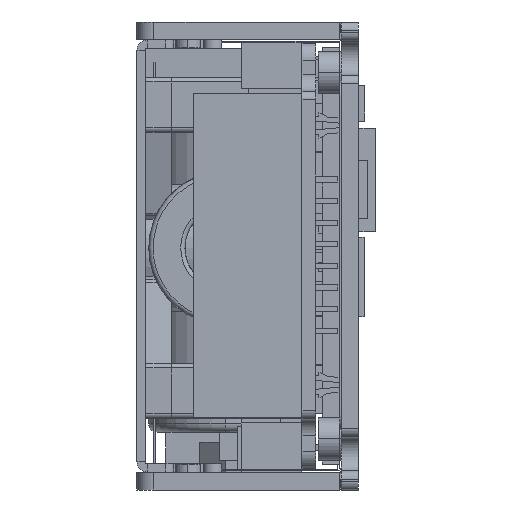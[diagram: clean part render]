
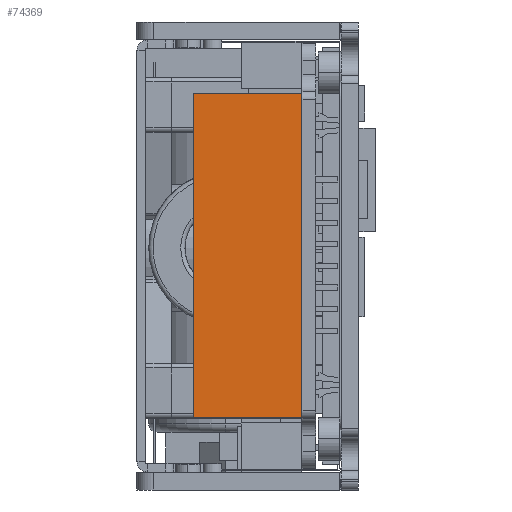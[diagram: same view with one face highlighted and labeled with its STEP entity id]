
A CAD part, left-side view. The second image highlights one B-rep face of the part: STEP entity #74369.
In plain terms, the highlighted planar face has unit normal (-1, 0, 0).
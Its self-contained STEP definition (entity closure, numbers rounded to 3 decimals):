
#68742=DIRECTION('',(0.,-1.,0.));
#68743=VECTOR('',#68742,12.7);
#68744=CARTESIAN_POINT('',(-105.6,19.3,-18.955));
#68745=LINE('',#68744,#68743);
#68762=DIRECTION('',(0.,0.,-1.));
#68763=VECTOR('',#68762,38.11);
#68764=CARTESIAN_POINT('',(-105.6,6.6,19.155));
#68765=LINE('',#68764,#68763);
#68766=DIRECTION('',(0.,-1.,0.));
#68767=VECTOR('',#68766,12.7);
#68768=CARTESIAN_POINT('',(-105.6,19.3,19.155));
#68769=LINE('',#68768,#68767);
#68782=DIRECTION('',(0.,0.,-1.));
#68783=VECTOR('',#68782,38.11);
#68784=CARTESIAN_POINT('',(-105.6,19.3,19.155));
#68785=LINE('',#68784,#68783);
#72606=CARTESIAN_POINT('',(-105.6,6.6,-18.955));
#72608=VERTEX_POINT('',#72606);
#72610=CARTESIAN_POINT('',(-105.6,6.6,19.155));
#72611=VERTEX_POINT('',#72610);
#72912=CARTESIAN_POINT('',(-105.6,19.3,-18.955));
#72913=VERTEX_POINT('',#72912);
#72916=CARTESIAN_POINT('',(-105.6,19.3,19.155));
#72917=VERTEX_POINT('',#72916);
#74357=CARTESIAN_POINT('',(-105.6,6.6,-18.955));
#74358=DIRECTION('',(-1.,0.,0.));
#74359=DIRECTION('',(0.,0.,1.));
#74360=AXIS2_PLACEMENT_3D('',#74357,#74358,#74359);
#74361=PLANE('',#74360);
#74362=ORIENTED_EDGE('',*,*,#73905,.T.);
#74363=ORIENTED_EDGE('',*,*,#74303,.F.);
#74365=ORIENTED_EDGE('',*,*,#74364,.F.);
#74366=ORIENTED_EDGE('',*,*,#74342,.T.);
#74367=EDGE_LOOP('',(#74362,#74363,#74365,#74366));
#74368=FACE_OUTER_BOUND('',#74367,.F.);
#74369=ADVANCED_FACE('',(#74368),#74361,.T.);
#73905=EDGE_CURVE('',#72611,#72608,#68765,.T.);
#74303=EDGE_CURVE('',#72913,#72608,#68745,.T.);
#74342=EDGE_CURVE('',#72917,#72611,#68769,.T.);
#74364=EDGE_CURVE('',#72917,#72913,#68785,.T.);
